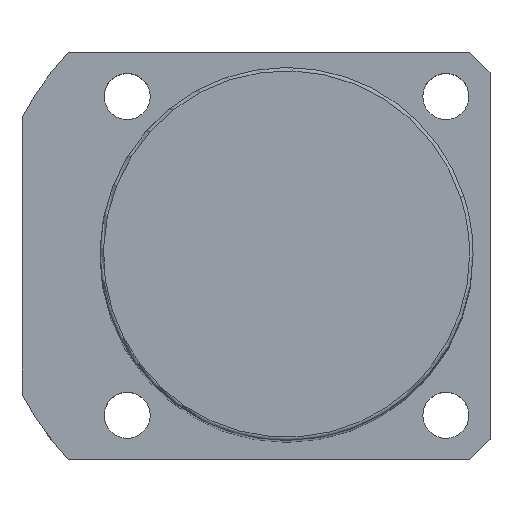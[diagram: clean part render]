
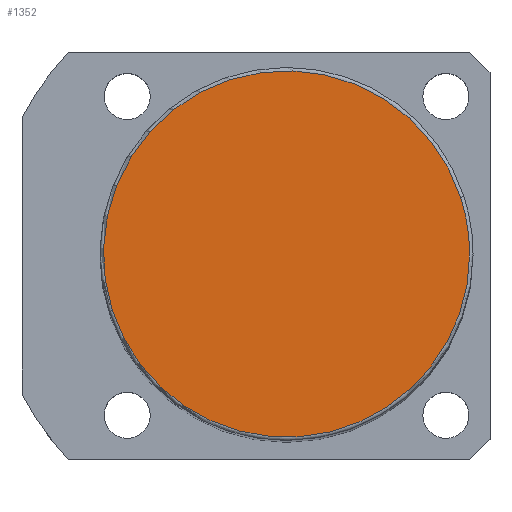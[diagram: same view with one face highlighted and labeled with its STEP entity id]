
A CAD part, top view. The second image highlights one B-rep face of the part: STEP entity #1352.
In plain terms, the highlighted planar face has unit normal (0, 0, 1).
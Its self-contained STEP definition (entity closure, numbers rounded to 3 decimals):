
#1285=CARTESIAN_POINT('',(25.679,8.343,171.0));
#1286=VERTEX_POINT('',#1285);
#1304=CARTESIAN_POINT('',(-25.679,-8.343,171.0));
#1305=VERTEX_POINT('',#1304);
#1313=CARTESIAN_POINT('',(0.0,0.0,171.0));
#1314=DIRECTION('',(0.0,0.0,1.0));
#1315=DIRECTION('',(1.0,0.0,0.0));
#1316=AXIS2_PLACEMENT_3D('',#1313,#1314,#1315);
#1317=CIRCLE('',#1316,27.0);
#1318=EDGE_CURVE('no 1844',#1286,#1305,#1317,.T.);
#1328=CARTESIAN_POINT('',(27.0,0.0,171.0));
#1329=VERTEX_POINT('',#1328);
#1330=CARTESIAN_POINT('',(0.0,0.0,171.0));
#1331=DIRECTION('',(0.0,0.0,1.0));
#1332=DIRECTION('',(1.0,0.0,0.0));
#1333=AXIS2_PLACEMENT_3D('',#1330,#1331,#1332);
#1334=CIRCLE('',#1333,27.0);
#1335=EDGE_CURVE('no 1853',#1329,#1286,#1334,.T.);
#1336=ORIENTED_EDGE('',*,*,#1335,.T.);
#1337=ORIENTED_EDGE('',*,*,#1318,.T.);
#1338=CARTESIAN_POINT('',(0.0,0.0,171.0));
#1339=DIRECTION('',(0.0,0.0,1.0));
#1340=DIRECTION('',(1.0,0.0,0.0));
#1341=AXIS2_PLACEMENT_3D('',#1338,#1339,#1340);
#1342=CIRCLE('',#1341,27.0);
#1343=EDGE_CURVE('no 1859',#1305,#1329,#1342,.T.);
#1344=ORIENTED_EDGE('',*,*,#1343,.T.);
#1345=EDGE_LOOP('',(#1336,#1337,#1344));
#1346=FACE_OUTER_BOUND('',#1345,.T.);
#1347=CARTESIAN_POINT('',(0.0,0.0,171.0));
#1348=DIRECTION('',(0.0,0.0,1.0));
#1349=DIRECTION('',(1.0,0.0,0.0));
#1350=AXIS2_PLACEMENT_3D('',#1347,#1348,#1349);
#1351=PLANE('',#1350);
#1352=ADVANCED_FACE('no 1846',(#1346),#1351,.T.);
